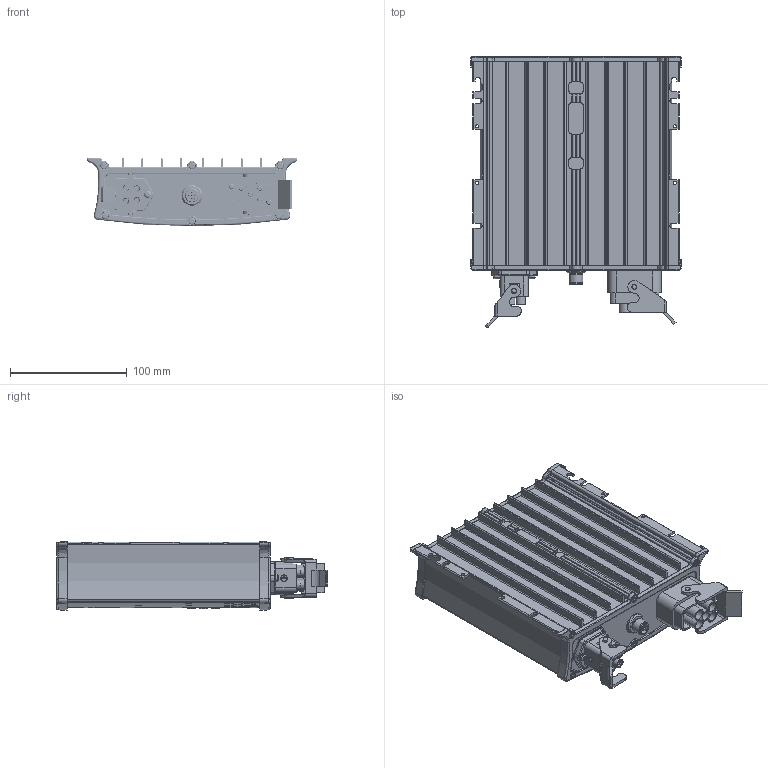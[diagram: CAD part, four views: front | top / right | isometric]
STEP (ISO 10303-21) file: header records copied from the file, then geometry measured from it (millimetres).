
FILE_DESCRIPTION (( 'STEP AP214' ), '1' );
FILE_NAME ('451.28.01.STEP', '2024-07-29T11:39:19', ( '' ), ( '' ), 'SwSTEP 2.0', 'SolidWorks 2024', '' );
FILE_SCHEMA (( 'AUTOMOTIVE_DESIGN' ));
Length unit declared in the file: millimetre
Products named in the file (1): 451.28.01
Bounding box: 180.63 x 232.7 x 58.73 mm (x, y, z)
Volume: 297741.6 mm3; surface area: 374813.7 mm2
Topology: 57 solids, 57 shells, 4024 faces, 11045 edges, 7564 vertices
Faces by surface type: plane 2033, cylinder 1233, torus 414, cone 242, bspline 98, sphere 4
Full cylindrical faces by diameter (mm): 0.116 x1, 0.151 x1, 0.165 x4, 0.195 x4, 0.228 x2, 0.269 x2, 0.452 x1, 0.455 x1, 0.538 x1, 0.56 x6, 0.57 x1, 0.591 x1, 0.63 x1, 0.8 x4, 1 x5, 1.4 x8, 1.6 x4, 1.75 x4, 2 x8, 2.2 x8, 2.3 x2, 2.4 x4, 2.459 x2, 2.5 x3, 2.6 x8, 2.7 x4, 2.85 x2, 3 x22, 3.05 x1, 3.2 x8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
Entity records: 202870 total; most frequent: CARTESIAN_POINT 58494, ORIENTED_EDGE 20856, DIRECTION 19908, EDGE_CURVE 10428, VERTEX_POINT 7406, AXIS2_PLACEMENT_3D 7394, VECTOR 5120, LINE 5120
